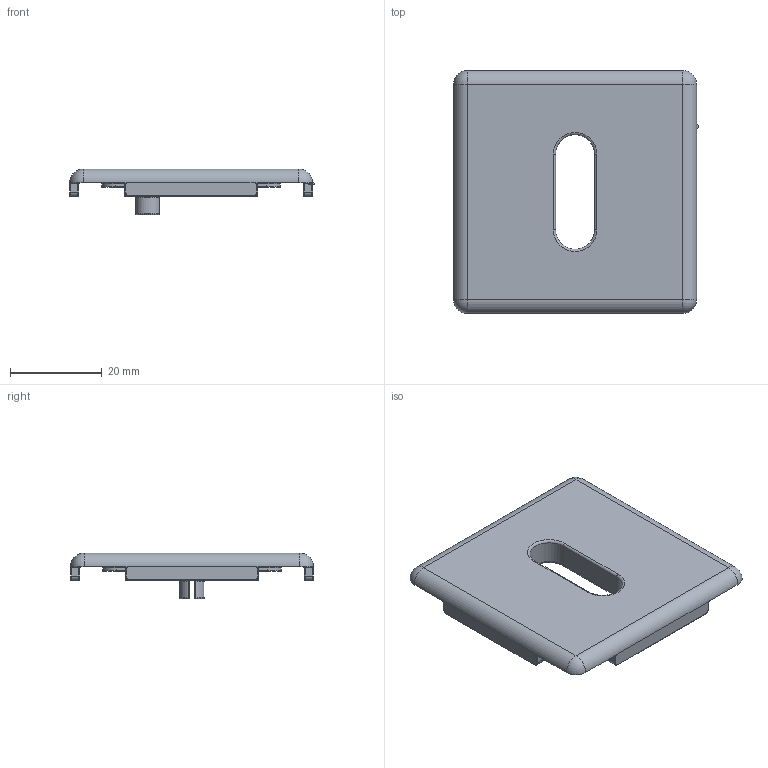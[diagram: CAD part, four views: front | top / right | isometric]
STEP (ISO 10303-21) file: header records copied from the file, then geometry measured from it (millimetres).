
FILE_DESCRIPTION (( 'STEP AP214' ), '1' );
FILE_NAME ('Accessories for aluminium profiles093048.step', '2015-11-17T11:02:11', ( '' ), ( '' ), 'SwSTEP 2.0', 'SolidWorks 2015', '' );
FILE_SCHEMA (( 'AUTOMOTIVE_DESIGN' ));
Length unit declared in the file: millimetre
Products named in the file (1): Accessories for aluminium profiles093048
Bounding box: 53.4 x 53 x 10 mm (x, y, z)
Volume: 10685.1 mm3; surface area: 7089.3 mm2
Topology: 1 solids, 1 shells, 211 faces, 492 edges, 278 vertices
Faces by surface type: cylinder 94, torus 68, plane 39, sphere 10
Entity records: 6344 total; most frequent: CARTESIAN_POINT 1382, DIRECTION 1170, ORIENTED_EDGE 968, AXIS2_PLACEMENT_3D 492, EDGE_CURVE 484, CIRCLE 280, VERTEX_POINT 278, EDGE_LOOP 220
